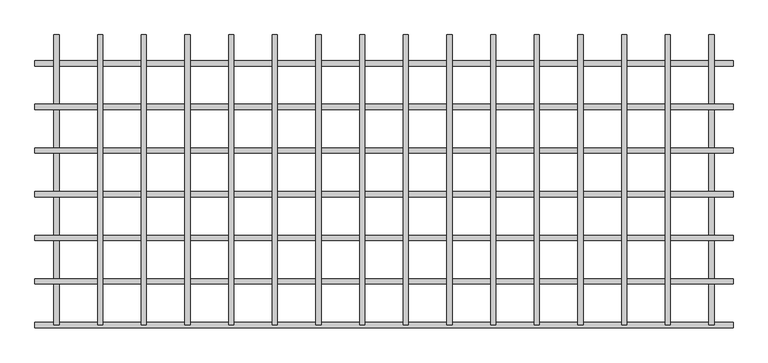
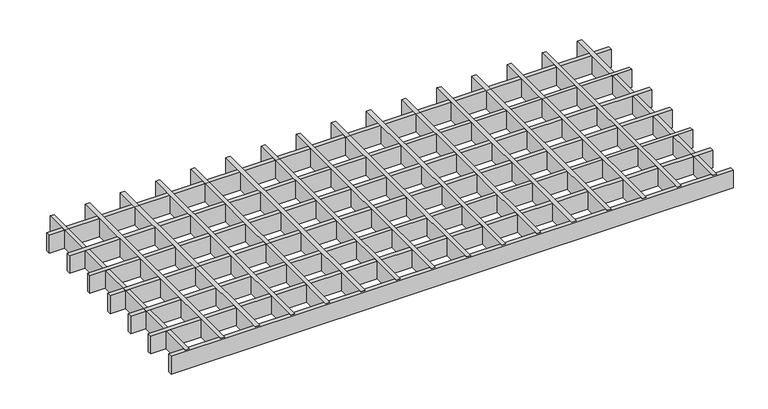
"""IFC4 building model written with IfcOpenShell, lengths in millimetres: proxy geometry, durlum_GEO_panel : durlum_GEO_9_width_cut."""

from ifc_helpers import new_model, si_unit, origin, origin_with_axes, place, context, project, spatial, polyline, outline, extrude, source, transform, mapped, element, save


def generic_models_f7fa241b(model_context):
    return source(origin(), model_context, "Body", "SweptSolid", [
        extrude(outline(polyline([(483.0, 249.5), (492.0, 249.5), (492.0, -249.5), (483.0, -249.5), (483.0, 249.5)])), origin_with_axes(), (0.0, 0.0, 1.0), 40.0),
        extrude(outline(polyline([(408.0, 249.5), (417.0, 249.5), (417.0, -249.5), (408.0, -249.5), (408.0, 249.5)])), origin_with_axes(), (0.0, 0.0, 1.0), 40.0),
        extrude(outline(polyline([(333.0, 249.5), (342.0, 249.5), (342.0, -249.5), (333.0, -249.5), (333.0, 249.5)])), origin_with_axes(), (0.0, 0.0, 1.0), 40.0),
        extrude(outline(polyline([(258.0, 249.5), (267.0, 249.5), (267.0, -249.5), (258.0, -249.5), (258.0, 249.5)])), origin_with_axes(), (0.0, 0.0, 1.0), 40.0),
        extrude(outline(polyline([(183.0, 249.5), (192.0, 249.5), (192.0, -249.5), (183.0, -249.5), (183.0, 249.5)])), origin_with_axes(), (0.0, 0.0, 1.0), 40.0),
        extrude(outline(polyline([(108.0, 249.5), (117.0, 249.5), (117.0, -249.5), (108.0, -249.5), (108.0, 249.5)])), origin_with_axes(), (0.0, 0.0, 1.0), 40.0),
        extrude(outline(polyline([(33.0, 249.5), (42.0, 249.5), (42.0, -249.5), (33.0, -249.5), (33.0, 249.5)])), origin_with_axes(), (0.0, 0.0, 1.0), 40.0),
        extrude(outline(polyline([(-42.0, 249.5), (-33.0, 249.5), (-33.0, -249.5), (-42.0, -249.5), (-42.0, 249.5)])), origin_with_axes(), (0.0, 0.0, 1.0), 40.0),
        extrude(outline(polyline([(-117.0, 249.5), (-108.0, 249.5), (-108.0, -249.5), (-117.0, -249.5), (-117.0, 249.5)])), origin_with_axes(), (0.0, 0.0, 1.0), 40.0),
        extrude(outline(polyline([(-192.0, 249.5), (-183.0, 249.5), (-183.0, -249.5), (-192.0, -249.5), (-192.0, 249.5)])), origin_with_axes(), (0.0, 0.0, 1.0), 40.0),
        extrude(outline(polyline([(-267.0, 249.5), (-258.0, 249.5), (-258.0, -249.5), (-267.0, -249.5), (-267.0, 249.5)])), origin_with_axes(), (0.0, 0.0, 1.0), 40.0),
        extrude(outline(polyline([(-342.0, 249.5), (-333.0, 249.5), (-333.0, -249.5), (-342.0, -249.5), (-342.0, 249.5)])), origin_with_axes(), (0.0, 0.0, 1.0), 40.0),
        extrude(outline(polyline([(-417.0, 249.5), (-408.0, 249.5), (-408.0, -249.5), (-417.0, -249.5), (-417.0, 249.5)])), origin_with_axes(), (0.0, 0.0, 1.0), 40.0),
        extrude(outline(polyline([(-492.0, 249.5), (-483.0, 249.5), (-483.0, -249.5), (-492.0, -249.5), (-492.0, 249.5)])), origin_with_axes(), (0.0, 0.0, 1.0), 40.0),
        extrude(outline(polyline([(599.5, -170.0), (599.5, -179.0), (-599.5, -179.0), (-599.5, -170.0), (599.5, -170.0)])), origin_with_axes(), (0.0, 0.0, 1.0), 40.0),
        extrude(outline(polyline([(599.5, -95.0), (599.5, -104.0), (-599.5, -104.0), (-599.5, -95.0), (599.5, -95.0)])), origin_with_axes(), (0.0, 0.0, 1.0), 40.0),
        extrude(outline(polyline([(599.5, -20.0), (599.5, -29.0), (-599.5, -29.0), (-599.5, -20.0), (599.5, -20.0)])), origin_with_axes(), (0.0, 0.0, 1.0), 40.0),
        extrude(outline(polyline([(599.5, 55.0), (599.5, 46.0), (-599.5, 46.0), (-599.5, 55.0), (599.5, 55.0)])), origin_with_axes(), (0.0, 0.0, 1.0), 40.0),
        extrude(outline(polyline([(599.5, 130.0), (599.5, 121.0), (-599.5, 121.0), (-599.5, 130.0), (599.5, 130.0)])), origin_with_axes(), (0.0, 0.0, 1.0), 40.0),
        extrude(outline(polyline([(558.0, 249.5), (567.0, 249.5), (567.0, -249.5), (558.0, -249.5), (558.0, 249.5)])), origin_with_axes(), (0.0, 0.0, 1.0), 40.0),
        extrude(outline(polyline([(-567.0, 249.5), (-558.0, 249.5), (-558.0, -249.5), (-567.0, -249.5), (-567.0, 249.5)])), origin_with_axes(), (0.0, 0.0, 1.0), 40.0),
        extrude(outline(polyline([(599.5, -245.0), (599.5, -254.0), (-599.5, -254.0), (-599.5, -245.0), (599.5, -245.0)])), origin_with_axes(), (0.0, 0.0, 1.0), 40.0),
        extrude(outline(polyline([(599.5, 205.0), (599.5, 196.0), (-599.5, 196.0), (-599.5, 205.0), (599.5, 205.0)])), origin_with_axes(), (0.0, 0.0, 1.0), 40.0),
    ])


if __name__ == "__main__":
    model = new_model("IFC4")
    model_context = context("Model", 3, world=origin())
    ifc_project = project(units=[si_unit("LENGTHUNIT", "METRE", prefix="MILLI")], contexts=[model_context])
    site = spatial("IfcSite", under=ifc_project)
    building = spatial("IfcBuilding", under=site)
    placement = place(None, origin())
    generic_models_shape = generic_models_f7fa241b(model_context)
    element("IfcBuildingElementProxy", 1, Name="durlum_GEO_panel : durlum_GEO_9_width_cut", ObjectType="durlum_GEO_panel : durlum_GEO_9_width_cut", at=placement, inside=building, context=model_context, shape_type="MappedRepresentation", body=[
        mapped(generic_models_shape, transform((0.0, 0.0, 0.0), x_axis=(1.0, 0.0, 0.0), y_axis=(0.0, 1.0, 0.0), z_axis=(0.0, 0.0, 1.0))),
    ])
    save(model, "model.ifc")
